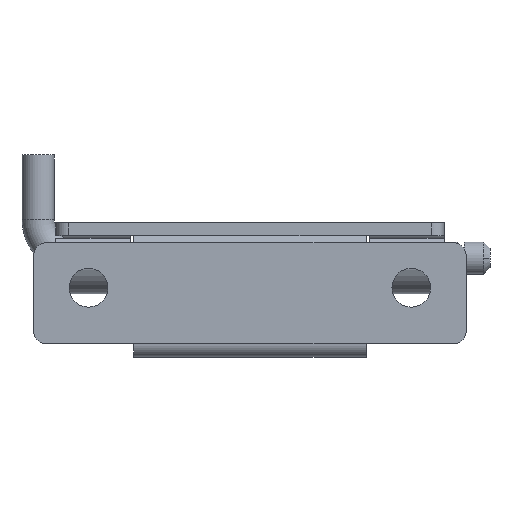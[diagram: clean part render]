
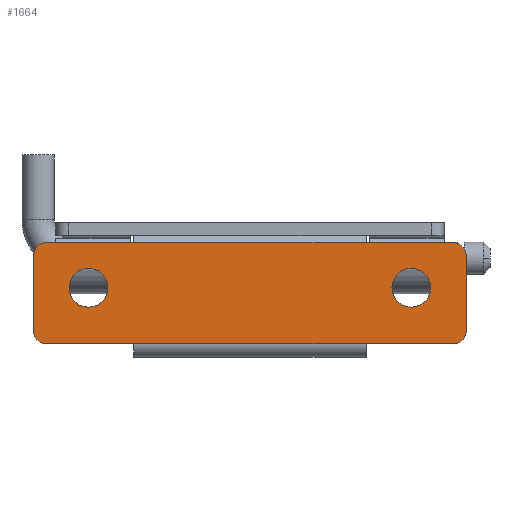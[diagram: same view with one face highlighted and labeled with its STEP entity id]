
A CAD part, top view. The second image highlights one B-rep face of the part: STEP entity #1664.
In plain terms, the highlighted planar face has unit normal (0, 0, 1).
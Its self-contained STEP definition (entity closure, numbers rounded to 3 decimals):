
#19 = ORIENTED_EDGE ( 'NONE', *, *, #883, .T. ) ;
#27 = VERTEX_POINT ( 'NONE', #1058 ) ;
#31 = DIRECTION ( 'NONE',  ( 1., 0., 0. ) ) ;
#32 = ORIENTED_EDGE ( 'NONE', *, *, #232, .F. ) ;
#46 = CARTESIAN_POINT ( 'NONE',  ( -18., -13.3, 17.13 ) ) ;
#76 = LINE ( 'NONE', #612, #1355 ) ;
#104 = EDGE_LOOP ( 'NONE', ( #1045, #1621 ) ) ;
#138 = DIRECTION ( 'NONE',  ( 1., 0., 0. ) ) ;
#164 = VERTEX_POINT ( 'NONE', #1202 ) ;
#172 = CARTESIAN_POINT ( 'NONE',  ( -33.5, -13.3, 17.13 ) ) ;
#179 = ORIENTED_EDGE ( 'NONE', *, *, #468, .F. ) ;
#196 = CIRCLE ( 'NONE', #1137, 2. ) ;
#231 = DIRECTION ( 'NONE',  ( 0., 0., 1. ) ) ;
#232 = EDGE_CURVE ( 'NONE', #1257, #791, #1883, .T. ) ;
#248 = EDGE_CURVE ( 'NONE', #1257, #27, #196, .T. ) ;
#256 = VERTEX_POINT ( 'NONE', #2067 ) ;
#273 = VECTOR ( 'NONE', #444, 1000. ) ;
#274 = DIRECTION ( 'NONE',  ( 1., 0., 0. ) ) ;
#294 = EDGE_CURVE ( 'NONE', #164, #1685, #1328, .T. ) ;
#319 = CARTESIAN_POINT ( 'NONE',  ( -33.5, -11.3, 17.13 ) ) ;
#326 = CARTESIAN_POINT ( 'NONE',  ( -31.5, -11.3, 17.13 ) ) ;
#334 = CIRCLE ( 'NONE', #774, 3. ) ;
#336 = DIRECTION ( 'NONE',  ( 1., 0., 0. ) ) ;
#345 = CARTESIAN_POINT ( 'NONE',  ( -33.5, -13.3, 17.13 ) ) ;
#350 = EDGE_CURVE ( 'NONE', #1338, #721, #462, .T. ) ;
#352 = ORIENTED_EDGE ( 'NONE', *, *, #1908, .T. ) ;
#353 = DIRECTION ( 'NONE',  ( 0., -1., 0. ) ) ;
#381 = DIRECTION ( 'NONE',  ( 1., 0., 0. ) ) ;
#389 = AXIS2_PLACEMENT_3D ( 'NONE', #1308, #1791, #381 ) ;
#444 = DIRECTION ( 'NONE',  ( 1., 0., 0. ) ) ;
#462 = CIRCLE ( 'NONE', #389, 3. ) ;
#468 = EDGE_CURVE ( 'NONE', #985, #27, #1986, .T. ) ;
#473 = DIRECTION ( 'NONE',  ( 0., 0., 1. ) ) ;
#475 = CARTESIAN_POINT ( 'NONE',  ( -33.5, -13.3, 17.13 ) ) ;
#541 = VERTEX_POINT ( 'NONE', #1391 ) ;
#612 = CARTESIAN_POINT ( 'NONE',  ( -33.5, -13.3, 17.13 ) ) ;
#618 = ORIENTED_EDGE ( 'NONE', *, *, #2028, .T. ) ;
#620 = VERTEX_POINT ( 'NONE', #1444 ) ;
#635 = FACE_OUTER_BOUND ( 'NONE', #696, .T. ) ;
#648 = EDGE_CURVE ( 'NONE', #620, #783, #334, .T. ) ;
#654 = DIRECTION ( 'NONE',  ( 1., 0., 0. ) ) ;
#682 = CIRCLE ( 'NONE', #1647, 2. ) ;
#683 = AXIS2_PLACEMENT_3D ( 'NONE', #326, #967, #1944 ) ;
#696 = EDGE_LOOP ( 'NONE', ( #32, #1870, #179, #618, #1939, #1428, #19, #352, #1528, #1582 ) ) ;
#721 = VERTEX_POINT ( 'NONE', #854 ) ;
#736 = CARTESIAN_POINT ( 'NONE',  ( -33.5, -13.3, 17.13 ) ) ;
#741 = AXIS2_PLACEMENT_3D ( 'NONE', #1352, #231, #1363 ) ;
#774 = AXIS2_PLACEMENT_3D ( 'NONE', #1626, #833, #31 ) ;
#783 = VERTEX_POINT ( 'NONE', #991 ) ;
#786 = DIRECTION ( 'NONE',  ( 0., 0., 1. ) ) ;
#791 = VERTEX_POINT ( 'NONE', #1172 ) ;
#823 = CARTESIAN_POINT ( 'NONE',  ( -31.5, -13.3, 17.13 ) ) ;
#833 = DIRECTION ( 'NONE',  ( 0., 0., 1. ) ) ;
#838 = CIRCLE ( 'NONE', #741, 3. ) ;
#854 = CARTESIAN_POINT ( 'NONE',  ( 22., -4.6, 17.13 ) ) ;
#883 = EDGE_CURVE ( 'NONE', #1381, #1161, #1405, .T. ) ;
#905 = VECTOR ( 'NONE', #1013, 1000. ) ;
#936 = CARTESIAN_POINT ( 'NONE',  ( 33.5, -13.3, 17.13 ) ) ;
#945 = DIRECTION ( 'NONE',  ( 0., -1., 0. ) ) ;
#961 = CARTESIAN_POINT ( 'NONE',  ( -31.5, 0.4, 17.13 ) ) ;
#967 = DIRECTION ( 'NONE',  ( 0., 0., 1. ) ) ;
#985 = VERTEX_POINT ( 'NONE', #1687 ) ;
#991 = CARTESIAN_POINT ( 'NONE',  ( -28., -4.6, 17.13 ) ) ;
#1013 = DIRECTION ( 'NONE',  ( -1., 0., 0. ) ) ;
#1029 = EDGE_CURVE ( 'NONE', #256, #541, #1759, .T. ) ;
#1045 = ORIENTED_EDGE ( 'NONE', *, *, #1999, .F. ) ;
#1058 = CARTESIAN_POINT ( 'NONE',  ( 31.5, 2.4, 17.13 ) ) ;
#1070 = VECTOR ( 'NONE', #353, 1000. ) ;
#1100 = DIRECTION ( 'NONE',  ( 1., 0., 0. ) ) ;
#1116 = DIRECTION ( 'NONE',  ( 0., 0., 1. ) ) ;
#1137 = AXIS2_PLACEMENT_3D ( 'NONE', #1139, #473, #1100 ) ;
#1139 = CARTESIAN_POINT ( 'NONE',  ( 31.5, 0.4, 17.13 ) ) ;
#1142 = CARTESIAN_POINT ( 'NONE',  ( 28., -4.6, 17.13 ) ) ;
#1161 = VERTEX_POINT ( 'NONE', #46 ) ;
#1172 = CARTESIAN_POINT ( 'NONE',  ( 33.5, -11.3, 17.13 ) ) ;
#1175 = EDGE_CURVE ( 'NONE', #783, #620, #838, .T. ) ;
#1199 = VECTOR ( 'NONE', #274, 1000. ) ;
#1202 = CARTESIAN_POINT ( 'NONE',  ( -33.5, 0.4, 17.13 ) ) ;
#1257 = VERTEX_POINT ( 'NONE', #1887 ) ;
#1265 = FACE_BOUND ( 'NONE', #104, .T. ) ;
#1274 = PLANE ( 'NONE',  #1878 ) ;
#1279 = EDGE_CURVE ( 'NONE', #256, #791, #682, .T. ) ;
#1282 = DIRECTION ( 'NONE',  ( 0., 0., 1. ) ) ;
#1308 = CARTESIAN_POINT ( 'NONE',  ( 25., -4.6, 17.13 ) ) ;
#1309 = ORIENTED_EDGE ( 'NONE', *, *, #1175, .F. ) ;
#1328 = LINE ( 'NONE', #345, #1070 ) ;
#1338 = VERTEX_POINT ( 'NONE', #1142 ) ;
#1352 = CARTESIAN_POINT ( 'NONE',  ( -25., -4.6, 17.13 ) ) ;
#1355 = VECTOR ( 'NONE', #1880, 1000. ) ;
#1363 = DIRECTION ( 'NONE',  ( 1., 0., 0. ) ) ;
#1379 = ORIENTED_EDGE ( 'NONE', *, *, #648, .F. ) ;
#1381 = VERTEX_POINT ( 'NONE', #823 ) ;
#1391 = CARTESIAN_POINT ( 'NONE',  ( 18., -13.3, 17.13 ) ) ;
#1405 = LINE ( 'NONE', #736, #273 ) ;
#1428 = ORIENTED_EDGE ( 'NONE', *, *, #1734, .T. ) ;
#1444 = CARTESIAN_POINT ( 'NONE',  ( -22., -4.6, 17.13 ) ) ;
#1528 = ORIENTED_EDGE ( 'NONE', *, *, #1029, .F. ) ;
#1563 = EDGE_LOOP ( 'NONE', ( #1309, #1379 ) ) ;
#1578 = CARTESIAN_POINT ( 'NONE',  ( 31.5, -11.3, 17.13 ) ) ;
#1582 = ORIENTED_EDGE ( 'NONE', *, *, #1279, .T. ) ;
#1593 = DIRECTION ( 'NONE',  ( 1., 0., 0. ) ) ;
#1621 = ORIENTED_EDGE ( 'NONE', *, *, #350, .F. ) ;
#1626 = CARTESIAN_POINT ( 'NONE',  ( -25., -4.6, 17.13 ) ) ;
#1647 = AXIS2_PLACEMENT_3D ( 'NONE', #1578, #786, #138 ) ;
#1649 = AXIS2_PLACEMENT_3D ( 'NONE', #961, #1282, #654 ) ;
#1664 = ADVANCED_FACE ( 'NONE', ( #2070, #1265, #635 ), #1274, .T. ) ;
#1683 = AXIS2_PLACEMENT_3D ( 'NONE', #2055, #2075, #1593 ) ;
#1685 = VERTEX_POINT ( 'NONE', #319 ) ;
#1687 = CARTESIAN_POINT ( 'NONE',  ( -31.5, 2.4, 17.13 ) ) ;
#1734 = EDGE_CURVE ( 'NONE', #1685, #1381, #1946, .T. ) ;
#1759 = LINE ( 'NONE', #172, #905 ) ;
#1791 = DIRECTION ( 'NONE',  ( 0., 0., 1. ) ) ;
#1870 = ORIENTED_EDGE ( 'NONE', *, *, #248, .T. ) ;
#1878 = AXIS2_PLACEMENT_3D ( 'NONE', #475, #1116, #336 ) ;
#1880 = DIRECTION ( 'NONE',  ( 1., 0., 0. ) ) ;
#1883 = LINE ( 'NONE', #936, #1896 ) ;
#1887 = CARTESIAN_POINT ( 'NONE',  ( 33.5, 0.4, 17.13 ) ) ;
#1896 = VECTOR ( 'NONE', #945, 1000. ) ;
#1908 = EDGE_CURVE ( 'NONE', #1161, #541, #76, .T. ) ;
#1915 = CIRCLE ( 'NONE', #1683, 3. ) ;
#1939 = ORIENTED_EDGE ( 'NONE', *, *, #294, .T. ) ;
#1944 = DIRECTION ( 'NONE',  ( 1., 0., 0. ) ) ;
#1946 = CIRCLE ( 'NONE', #683, 2. ) ;
#1982 = CIRCLE ( 'NONE', #1649, 2. ) ;
#1986 = LINE ( 'NONE', #2021, #1199 ) ;
#1999 = EDGE_CURVE ( 'NONE', #721, #1338, #1915, .T. ) ;
#2021 = CARTESIAN_POINT ( 'NONE',  ( -33.5, 2.4, 17.13 ) ) ;
#2028 = EDGE_CURVE ( 'NONE', #985, #164, #1982, .T. ) ;
#2055 = CARTESIAN_POINT ( 'NONE',  ( 25., -4.6, 17.13 ) ) ;
#2067 = CARTESIAN_POINT ( 'NONE',  ( 31.5, -13.3, 17.13 ) ) ;
#2070 = FACE_BOUND ( 'NONE', #1563, .T. ) ;
#2075 = DIRECTION ( 'NONE',  ( 0., 0., 1. ) ) ;
